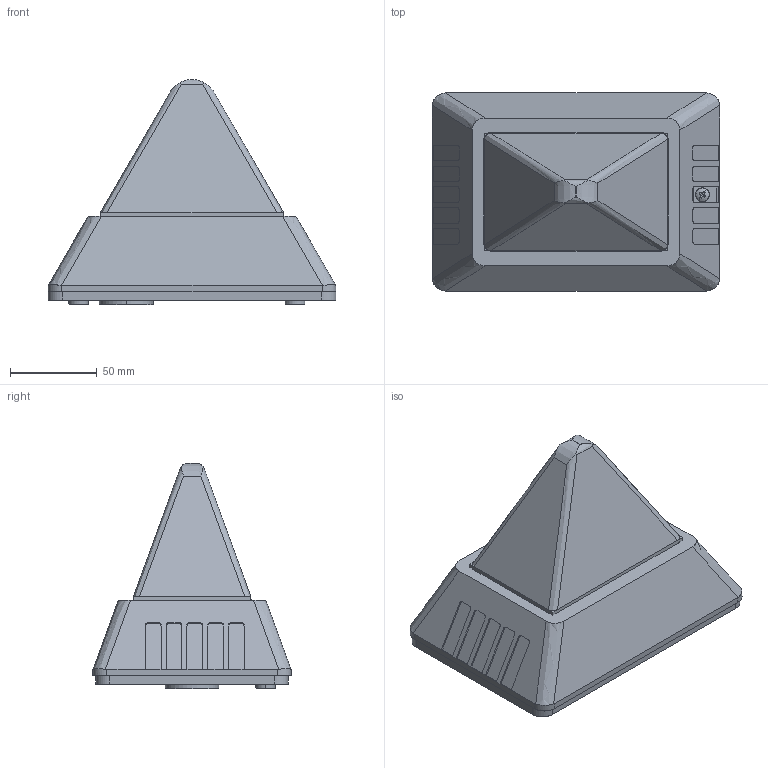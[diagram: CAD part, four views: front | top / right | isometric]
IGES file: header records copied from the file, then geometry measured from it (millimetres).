
Start section: SolidWorks IGES file using analytic representation for surfaces
Global section: file name: C:\PDMWTemp\PB_PD 2000.IGS; native system: SolidWorks 2009; preprocessor: SolidWorks 2009; author: MMark; date: 100112.114824; units: millimetre
Bounding box: 166.2 x 114.39 x 130 mm (x, y, z)
Surface area: 90668 mm2 (no closed solid volume)
Topology: 0 solids, 0 shells, 210 faces, 3141 edges, 3137 vertices
Faces by surface type: bspline 122, revolution 88
